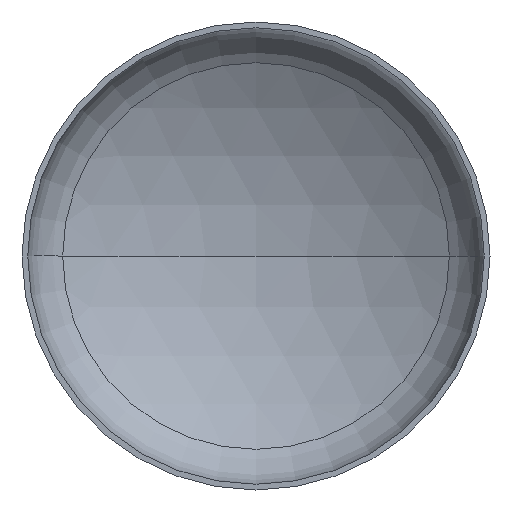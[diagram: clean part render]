
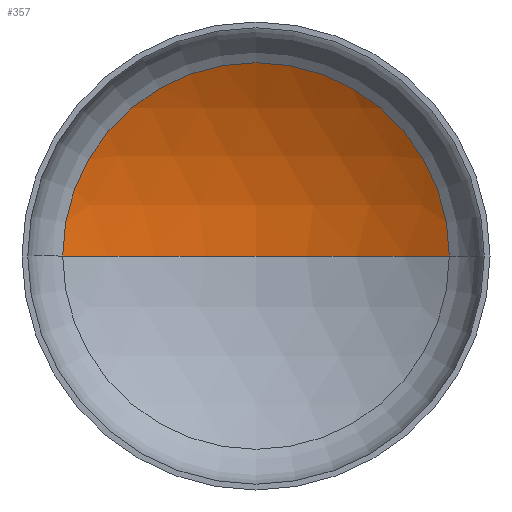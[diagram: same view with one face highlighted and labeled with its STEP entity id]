
A CAD part, front view. The second image highlights one B-rep face of the part: STEP entity #357.
In plain terms, the highlighted spherical face has radius 5600 mm.
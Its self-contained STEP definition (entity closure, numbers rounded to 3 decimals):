
#8 = AXIS2_PLACEMENT_3D ( 'NONE', #250, #274, #156 ) ;
#13 = VERTEX_POINT ( 'NONE', #281 ) ;
#55 = VERTEX_POINT ( 'NONE', #260 ) ;
#65 = AXIS2_PLACEMENT_3D ( 'NONE', #266, #294, #185 ) ;
#68 = ORIENTED_EDGE ( 'NONE', *, *, #142, .T. ) ;
#69 = AXIS2_PLACEMENT_3D ( 'NONE', #180, #295, #106 ) ;
#78 = AXIS2_PLACEMENT_3D ( 'NONE', #203, #201, #202 ) ;
#87 = ORIENTED_EDGE ( 'NONE', *, *, #146, .T. ) ;
#91 = CIRCLE ( 'NONE', #69, 5600. ) ;
#103 = VERTEX_POINT ( 'NONE', #242 ) ;
#106 = DIRECTION ( 'NONE',  ( -1., 0., 0. ) ) ;
#112 = EDGE_LOOP ( 'NONE', ( #119, #87, #68 ) ) ;
#119 = ORIENTED_EDGE ( 'NONE', *, *, #148, .F. ) ;
#142 = EDGE_CURVE ( 'NONE', #13, #55, #282, .T. ) ;
#146 = EDGE_CURVE ( 'NONE', #103, #13, #91, .T. ) ;
#148 = EDGE_CURVE ( 'NONE', #103, #55, #384, .T. ) ;
#156 = DIRECTION ( 'NONE',  ( -1., 0., 0. ) ) ;
#180 = CARTESIAN_POINT ( 'NONE',  ( 0., -3770.768, 0. ) ) ;
#185 = DIRECTION ( 'NONE',  ( 1., 0., 0. ) ) ;
#201 = DIRECTION ( 'NONE',  ( 0., -1., 0. ) ) ;
#202 = DIRECTION ( 'NONE',  ( 1., 0., 0. ) ) ;
#203 = CARTESIAN_POINT ( 'NONE',  ( 0., 1024.874, 0. ) ) ;
#242 = CARTESIAN_POINT ( 'NONE',  ( 0., 1829.232, 0. ) ) ;
#250 = CARTESIAN_POINT ( 'NONE',  ( 0., -3770.768, 0. ) ) ;
#260 = CARTESIAN_POINT ( 'NONE',  ( -2891.681, 1024.874, 0. ) ) ;
#266 = CARTESIAN_POINT ( 'NONE',  ( 0., -3770.768, 0. ) ) ;
#274 = DIRECTION ( 'NONE',  ( 0., 0., -1. ) ) ;
#281 = CARTESIAN_POINT ( 'NONE',  ( 2891.681, 1024.874, 0. ) ) ;
#282 = CIRCLE ( 'NONE', #78, 2891.681 ) ;
#294 = DIRECTION ( 'NONE',  ( 0., 0., 1. ) ) ;
#295 = DIRECTION ( 'NONE',  ( 0., 0., -1. ) ) ;
#357 = ADVANCED_FACE ( 'NONE', ( #367 ), #404, .F. ) ;
#367 = FACE_OUTER_BOUND ( 'NONE', #112, .T. ) ;
#384 = CIRCLE ( 'NONE', #65, 5600. ) ;
#404 = SPHERICAL_SURFACE ( 'NONE', #8, 5600. ) ;
